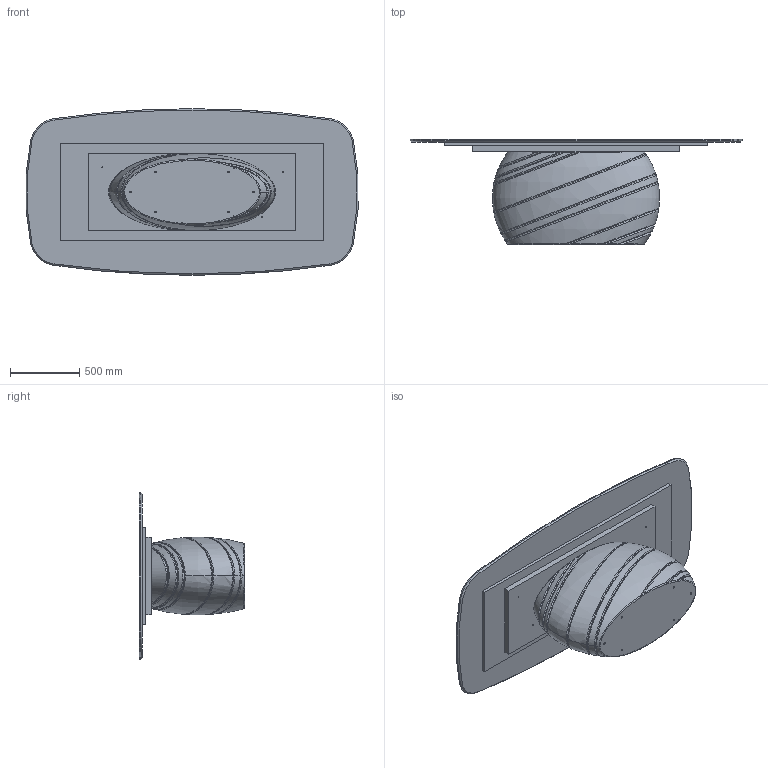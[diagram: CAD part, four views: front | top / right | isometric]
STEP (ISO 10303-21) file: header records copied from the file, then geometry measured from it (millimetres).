
FILE_DESCRIPTION (( 'STEP AP203' ), '1' );
FILE_NAME ('marmo 240x120 sag.STEP', '2025-05-26T14:04:59', ( '' ), ( '' ), 'SwSTEP 2.0', 'SolidWorks 2022', '' );
FILE_SCHEMA (( 'CONFIG_CONTROL_DESIGN' ));
Length unit declared in the file: millimetre
Products named in the file (3): marmo 240x120 sag; PIANI_modello 3D x web_Marmo 240x120 sag; GIB000xxx-00-BASE GIOVE X 300
Assembly tree (2 placements, depth 2):
  marmo 240x120 sag
    PIANI_modello 3D x web_Marmo 240x120 sag
    GIB000xxx-00-BASE GIOVE X 300
Bounding box: 2391.62 x 757 x 1200 mm (x, y, z)
Volume: 436098792.1 mm3; surface area: 12801841.7 mm2
Topology: 4 solids, 4 shells, 176 faces, 427 edges, 274 vertices
Faces by surface type: cylinder 53, bspline 53, plane 37, cone 33
Entity records: 37810 total; most frequent: CARTESIAN_POINT 33705, ORIENTED_EDGE 854, DIRECTION 682, EDGE_CURVE 427, AXIS2_PLACEMENT_3D 280, VERTEX_POINT 274, EDGE_LOOP 211, ADVANCED_FACE 176
